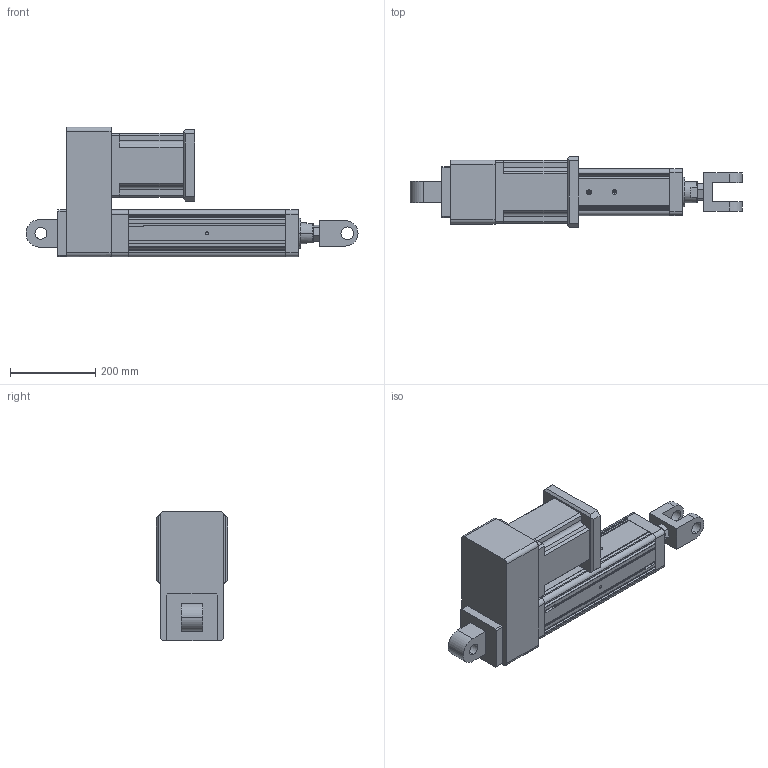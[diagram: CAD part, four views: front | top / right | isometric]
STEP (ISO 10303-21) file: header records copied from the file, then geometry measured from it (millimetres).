
FILE_DESCRIPTION (( 'STEP AP203' ), '1' );
FILE_NAME ('YRJ110-L200-H6K4.STEP', '2020-01-04T06:54:16', ( 'User' ), ( 'China' ), 'SwSTEP 2.0', 'SolidWorks 2016', '' );
FILE_SCHEMA (( 'CONFIG_CONTROL_DESIGN' ));
Length unit declared in the file: millimetre
Products named in the file (8): H5-110-1; H6-110; H3-110-2; YRJ110-L200-H6K4; 095-100俴最倰第; 萇儂碟-110; 142熬厒儂; K4-110
Assembly tree (7 placements, depth 2):
  YRJ110-L200-H6K4
    095-100俴最倰第
    萇儂碟-110
    142熬厒儂
    K4-110
    H5-110-1
    H6-110
    H3-110-2
Bounding box: 781 x 168 x 305.5 mm (x, y, z)
Volume: 12030027.3 mm3; surface area: 897811.2 mm2
Topology: 7 solids, 7 shells, 336 faces, 919 edges, 595 vertices
Faces by surface type: plane 191, cylinder 118, cone 27
Entity records: 11712 total; most frequent: CARTESIAN_POINT 2184, DIRECTION 1824, ORIENTED_EDGE 1806, EDGE_CURVE 903, VECTOR 630, LINE 630, AXIS2_PLACEMENT_3D 597, VERTEX_POINT 595
